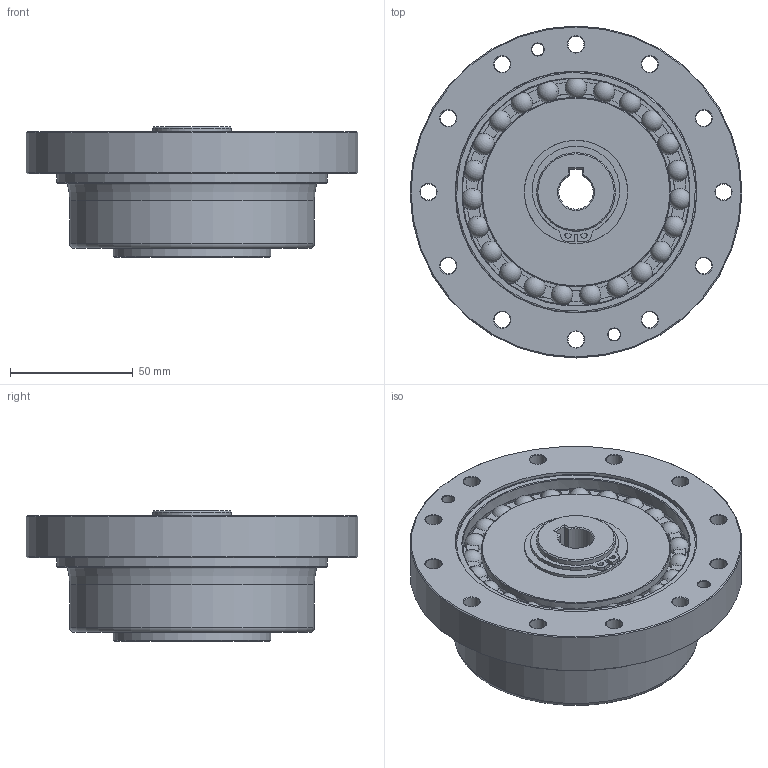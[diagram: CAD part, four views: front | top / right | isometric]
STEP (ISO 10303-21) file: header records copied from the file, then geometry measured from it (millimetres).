
FILE_DESCRIPTION(/* description */ (''),/* implementation_level */ '2;1');
FILE_NAME(/* name */ 'S:\TB00F\研發課二組\機密級\1.\X2\8A2D8A08\X0\\01-DT\DT-圖面\2.組合圖\\X2\6E1B901F6A5F7D4454085716\X0\\WUI-S-40\AK000KB2\模型\DSC-40-XX-CO-V2.stp',/* time_stamp */ '2024-09-18T09:48:07+08:00',/* author */ ('ted40524246.cheng'),/* organization */ (''),/* preprocessor_version */ 'ST-DEVELOPER v15.2',/* originating_system */ 'Autodesk Inventor 2014',/* authorisation */ '');
FILE_SCHEMA (('AUTOMOTIVE_DESIGN { 1 0 10303 214 3 1 1 }'));
Length unit declared in the file: centimetre
Products named in the file (1): DSC-40-XX-CO
Bounding box: 135 x 135 x 53 mm (x, y, z)
Volume: 266686.2 mm3; surface area: 82226 mm2
Topology: 1 solids, 1 shells, 350 faces, 946 edges, 585 vertices
Faces by surface type: cylinder 139, plane 77, cone 61, torus 50, sphere 23
Full cylindrical faces by diameter (mm): 4.917 x4, 6.6 x12, 11 x8, 30.3 x1, 32 x2, 34.455 x1, 42 x1, 64 x1, 67.5 x1, 76.96 x1, 92.35 x1, 98.17 x2, 99.54 x1, 103.475 x1, 110 x1, 135 x1
Entity records: 10525 total; most frequent: CARTESIAN_POINT 2025, DIRECTION 1910, ORIENTED_EDGE 1576, AXIS2_PLACEMENT_3D 887, EDGE_CURVE 742, CIRCLE 536, EDGE_LOOP 516, VERTEX_POINT 506
